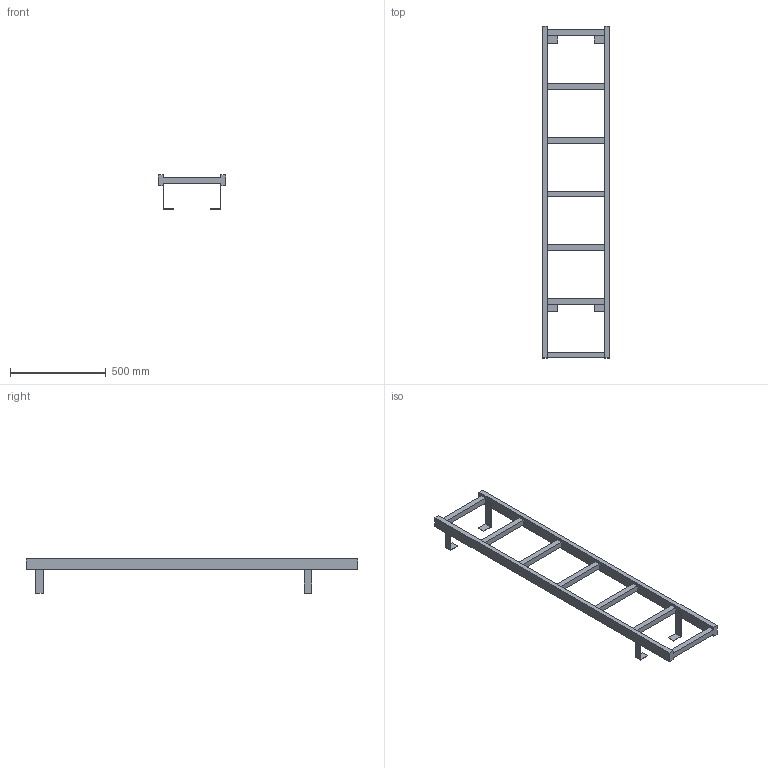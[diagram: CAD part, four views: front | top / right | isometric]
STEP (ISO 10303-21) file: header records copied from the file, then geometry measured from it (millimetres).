
FILE_DESCRIPTION((''),'2;1');
FILE_NAME('52311043','2024-10-17T12:14:10',('wep'),('HUBER SE'),'CREO PARAMETRIC BY PTC INC, 2022162','CREO PARAMETRIC BY PTC INC, 2022162','');
FILE_SCHEMA(('AUTOMOTIVE_DESIGN { 1 0 10303 214 1 1 1 1 }'));
Length unit declared in the file: millimetre
Products named in the file (1): 52311043
Bounding box: 350 x 1730 x 178.5 mm (x, y, z)
Volume: 6885460 mm3; surface area: 872028 mm2
Topology: 1 solids, 1 shells, 70 faces, 204 edges, 132 vertices
Faces by surface type: plane 70
Entity records: 2845 total; most frequent: CARTESIAN_POINT 408, ORIENTED_EDGE 408, DIRECTION 344, VECTOR 204, LINE 204, EDGE_CURVE 204, VERTEX_POINT 132, COLOUR_RGB 106
